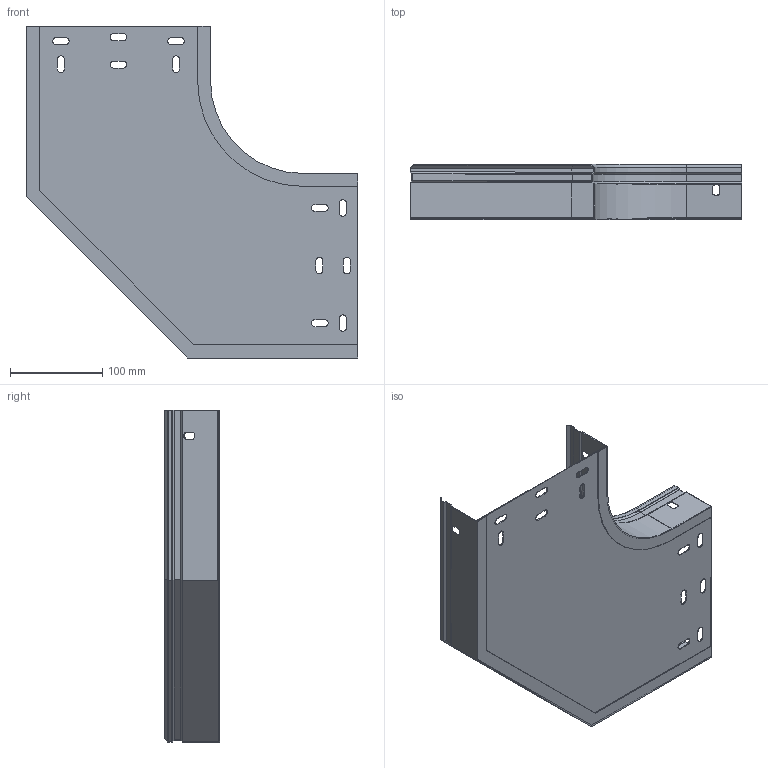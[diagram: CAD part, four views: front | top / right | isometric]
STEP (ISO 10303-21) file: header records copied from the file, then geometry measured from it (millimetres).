
FILE_DESCRIPTION (( 'STEP AP203' ), '1' );
FILE_NAME ('CPERC 200x60.STEP', '2020-02-12T12:33:13', ( '' ), ( '' ), 'SwSTEP 2.0', 'SolidWorks 2019', '' );
FILE_SCHEMA (( 'CONFIG_CONTROL_DESIGN' ));
Length unit declared in the file: millimetre
Products named in the file (4): ERE_LATERAL EXT CP_200 x 60; ERE_LATERAL INT CP_60; ERE_BASE CP_200; CPERC 200x60
Assembly tree (3 placements, depth 2):
  CPERC 200x60
    ERE_BASE CP_200
    ERE_LATERAL INT CP_60
    ERE_LATERAL EXT CP_200 x 60
Bounding box: 360.36 x 60 x 360.36 mm (x, y, z)
Volume: 156312.6 mm3; surface area: 316683.9 mm2
Topology: 3 solids, 3 shells, 172 faces, 450 edges, 284 vertices
Faces by surface type: plane 119, cylinder 46, cone 7
Entity records: 5682 total; most frequent: CARTESIAN_POINT 912, DIRECTION 900, ORIENTED_EDGE 900, EDGE_CURVE 450, LINE 356, VECTOR 356, VERTEX_POINT 284, AXIS2_PLACEMENT_3D 272
